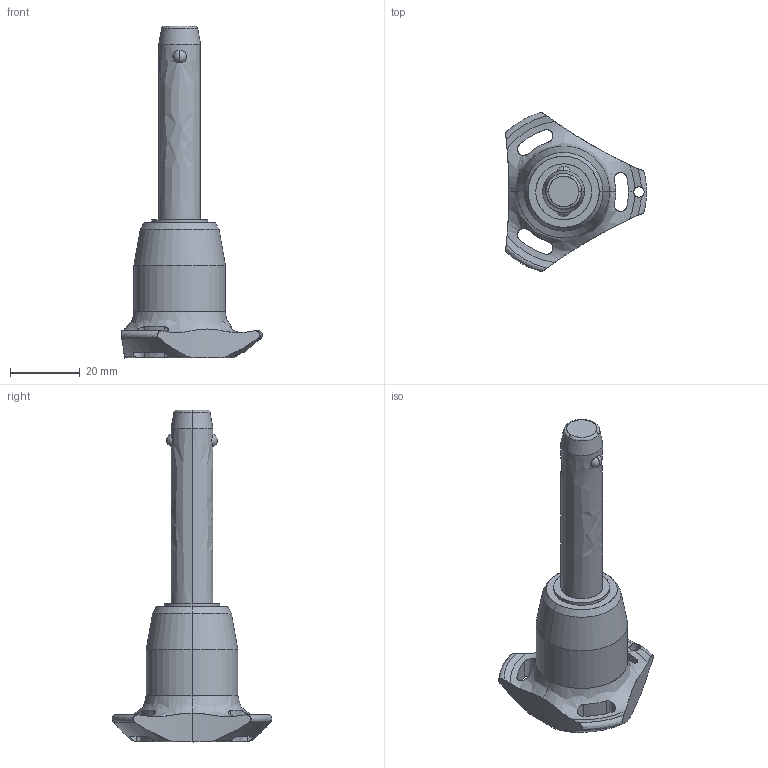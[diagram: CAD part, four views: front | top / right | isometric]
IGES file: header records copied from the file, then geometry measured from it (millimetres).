
Start section: SolidWorks IGES file using analytic representation for surfaces
Global section: file name: C:\Users\ianosborn\Desktop\QR1714_v2\QR1714_v2_20251112_IGES\QR1714.M12-045-S.igs; native system: SolidWorks 2019; preprocessor: SolidWorks 2019; author: IanOsborn; date: 251112.101455; units: millimetre
Bounding box: 40.5 x 45.88 x 95.3 mm (x, y, z)
Surface area: 8034.1 mm2 (no closed solid volume)
Topology: 0 solids, 0 shells, 65 faces, 1363 edges, 1359 vertices
Faces by surface type: revolution 50, bspline 15
